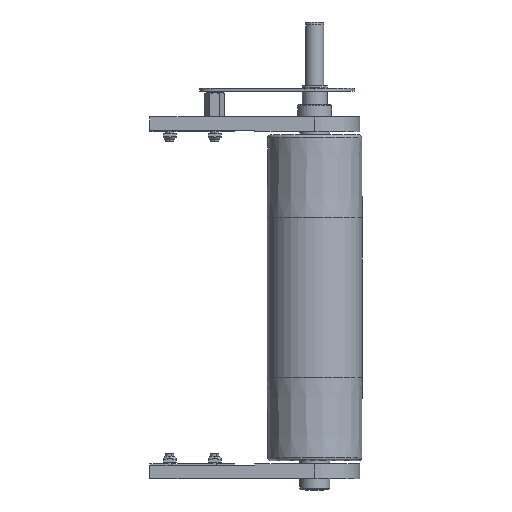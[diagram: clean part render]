
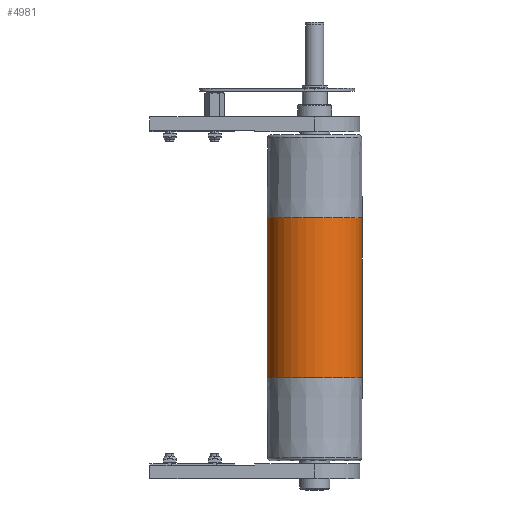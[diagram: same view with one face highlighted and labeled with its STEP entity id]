
A CAD part, front view. The second image highlights one B-rep face of the part: STEP entity #4981.
In plain terms, the highlighted cylindrical face has radius 47.5 mm (diameter 95 mm), a partial arc.
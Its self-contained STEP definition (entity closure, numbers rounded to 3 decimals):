
#301 = ORIENTED_EDGE ( 'NONE', *, *, #12689, .F. ) ;
#1168 = VERTEX_POINT ( 'NONE', #18945 ) ;
#1172 = EDGE_LOOP ( 'NONE', ( #301, #3425, #12348, #10612 ) ) ;
#1208 = FACE_OUTER_BOUND ( 'NONE', #1172, .T. ) ;
#1652 = DIRECTION ( 'NONE',  ( -1., 0., 0. ) ) ;
#2539 = VERTEX_POINT ( 'NONE', #3664 ) ;
#2661 = EDGE_CURVE ( 'NONE', #1168, #8331, #9547, .T. ) ;
#3425 = ORIENTED_EDGE ( 'NONE', *, *, #13475, .F. ) ;
#3664 = CARTESIAN_POINT ( 'NONE',  ( -80., 0., -47.5 ) ) ;
#4231 = CARTESIAN_POINT ( 'NONE',  ( 160., 0., 47.5 ) ) ;
#4465 = DIRECTION ( 'NONE',  ( 0., 0., -1. ) ) ;
#4796 = VECTOR ( 'NONE', #20043, 1000. ) ;
#4981 = ADVANCED_FACE ( 'NONE', ( #1208 ), #12660, .T. ) ;
#5737 = LINE ( 'NONE', #14011, #18007 ) ;
#7193 = CARTESIAN_POINT ( 'NONE',  ( -80., 0., 47.5 ) ) ;
#8322 = DIRECTION ( 'NONE',  ( 0., 0., 1. ) ) ;
#8331 = VERTEX_POINT ( 'NONE', #7193 ) ;
#9237 = CIRCLE ( 'NONE', #19532, 47.5 ) ;
#9547 = LINE ( 'NONE', #4231, #4796 ) ;
#10194 = CIRCLE ( 'NONE', #20093, 47.5 ) ;
#10239 = DIRECTION ( 'NONE',  ( 1., 0., 0. ) ) ;
#10612 = ORIENTED_EDGE ( 'NONE', *, *, #14856, .T. ) ;
#11213 = CARTESIAN_POINT ( 'NONE',  ( 160., 0., 0. ) ) ;
#11759 = DIRECTION ( 'NONE',  ( 1., 0., 0. ) ) ;
#12348 = ORIENTED_EDGE ( 'NONE', *, *, #2661, .T. ) ;
#12566 = DIRECTION ( 'NONE',  ( -1., 0., 0. ) ) ;
#12660 = CYLINDRICAL_SURFACE ( 'NONE', #14737, 47.5 ) ;
#12689 = EDGE_CURVE ( 'NONE', #19278, #2539, #5737, .T. ) ;
#13281 = CARTESIAN_POINT ( 'NONE',  ( 80., 0., 0. ) ) ;
#13475 = EDGE_CURVE ( 'NONE', #1168, #19278, #9237, .T. ) ;
#14011 = CARTESIAN_POINT ( 'NONE',  ( 160., 0., -47.5 ) ) ;
#14737 = AXIS2_PLACEMENT_3D ( 'NONE', #11213, #1652, #8322 ) ;
#14856 = EDGE_CURVE ( 'NONE', #8331, #2539, #10194, .T. ) ;
#14907 = DIRECTION ( 'NONE',  ( 0., 0., -1. ) ) ;
#18007 = VECTOR ( 'NONE', #12566, 1000. ) ;
#18762 = CARTESIAN_POINT ( 'NONE',  ( 80., 0., -47.5 ) ) ;
#18945 = CARTESIAN_POINT ( 'NONE',  ( 80., 0., 47.5 ) ) ;
#19278 = VERTEX_POINT ( 'NONE', #18762 ) ;
#19532 = AXIS2_PLACEMENT_3D ( 'NONE', #13281, #11759, #14907 ) ;
#19796 = CARTESIAN_POINT ( 'NONE',  ( -80., 0., 0. ) ) ;
#20043 = DIRECTION ( 'NONE',  ( -1., 0., 0. ) ) ;
#20093 = AXIS2_PLACEMENT_3D ( 'NONE', #19796, #10239, #4465 ) ;
